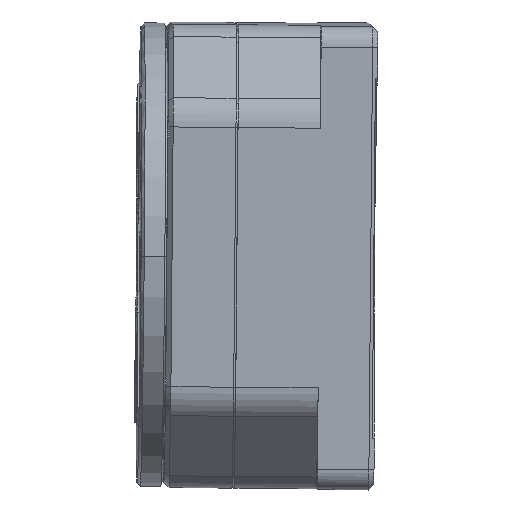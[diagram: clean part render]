
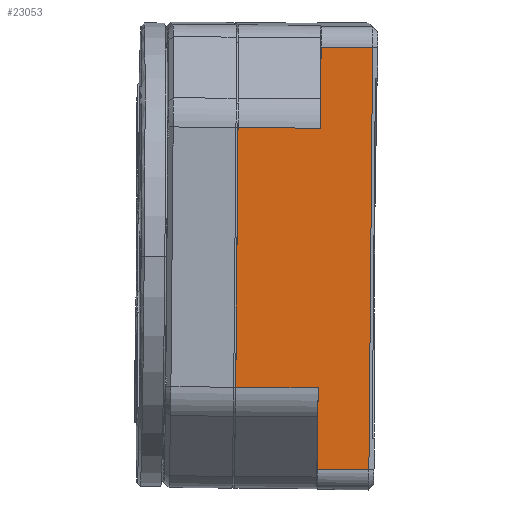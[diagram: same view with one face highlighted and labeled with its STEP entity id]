
A CAD part, left-side view. The second image highlights one B-rep face of the part: STEP entity #23053.
In plain terms, the highlighted planar face has unit normal (-1, -0.009, -0.009) as drawn and (0, 1, 0) by its records, which use the part's own axes.
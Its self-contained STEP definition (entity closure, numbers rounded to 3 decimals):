
#74 = VERTEX_POINT ( 'NONE', #6966 ) ;
#516 = EDGE_CURVE ( 'NONE', #3698, #27221, #11740, .T. ) ;
#1217 = ORIENTED_EDGE ( 'NONE', *, *, #15219, .T. ) ;
#1643 = VERTEX_POINT ( 'NONE', #22142 ) ;
#1649 = DIRECTION ( 'NONE',  ( 0., 0., -1. ) ) ;
#2105 = VERTEX_POINT ( 'NONE', #10804 ) ;
#2414 = VECTOR ( 'NONE', #3109, 1000. ) ;
#3026 = LINE ( 'NONE', #23701, #27061 ) ;
#3109 = DIRECTION ( 'NONE',  ( 0., 0., -1. ) ) ;
#3274 = CARTESIAN_POINT ( 'NONE',  ( 10., 22.5, 20.5 ) ) ;
#3293 = DIRECTION ( 'NONE',  ( 1., 0., 0. ) ) ;
#3348 = EDGE_CURVE ( 'NONE', #8338, #3698, #3026, .T. ) ;
#3698 = VERTEX_POINT ( 'NONE', #3274 ) ;
#4029 = VECTOR ( 'NONE', #27147, 1000. ) ;
#4342 = ORIENTED_EDGE ( 'NONE', *, *, #25161, .F. ) ;
#5672 = PLANE ( 'NONE',  #22045 ) ;
#5898 = DIRECTION ( 'NONE',  ( -1., 0., 0. ) ) ;
#6966 = CARTESIAN_POINT ( 'NONE',  ( -3., 22.5, 12.613 ) ) ;
#7751 = CARTESIAN_POINT ( 'NONE',  ( 10.5, 22.5, 12.613 ) ) ;
#7828 = FACE_OUTER_BOUND ( 'NONE', #24069, .T. ) ;
#8338 = VERTEX_POINT ( 'NONE', #10260 ) ;
#9215 = DIRECTION ( 'NONE',  ( 0., 0., -1. ) ) ;
#9756 = LINE ( 'NONE', #16392, #4029 ) ;
#10061 = CARTESIAN_POINT ( 'NONE',  ( -3., 22.5, 12.613 ) ) ;
#10260 = CARTESIAN_POINT ( 'NONE',  ( 5., 22.5, 20.5 ) ) ;
#10804 = CARTESIAN_POINT ( 'NONE',  ( 5., 22.5, 12.613 ) ) ;
#10959 = ORIENTED_EDGE ( 'NONE', *, *, #3348, .T. ) ;
#11085 = LINE ( 'NONE', #21863, #13458 ) ;
#11740 = LINE ( 'NONE', #14048, #27184 ) ;
#11796 = VECTOR ( 'NONE', #5898, 1000. ) ;
#12416 = CARTESIAN_POINT ( 'NONE',  ( 5., 22.5, -12.613 ) ) ;
#12692 = ORIENTED_EDGE ( 'NONE', *, *, #18359, .F. ) ;
#13458 = VECTOR ( 'NONE', #9215, 1000. ) ;
#13751 = VECTOR ( 'NONE', #3293, 1000. ) ;
#13907 = ORIENTED_EDGE ( 'NONE', *, *, #516, .T. ) ;
#14048 = CARTESIAN_POINT ( 'NONE',  ( 10., 22.5, -20.5 ) ) ;
#14188 = LINE ( 'NONE', #26824, #2414 ) ;
#14533 = LINE ( 'NONE', #10061, #26801 ) ;
#15219 = EDGE_CURVE ( 'NONE', #27221, #1643, #25725, .T. ) ;
#16392 = CARTESIAN_POINT ( 'NONE',  ( 10.5, 22.5, -12.613 ) ) ;
#16703 = DIRECTION ( 'NONE',  ( 0., 0., -1. ) ) ;
#16894 = CARTESIAN_POINT ( 'NONE',  ( 10.5, 22.5, 22.5 ) ) ;
#18359 = EDGE_CURVE ( 'NONE', #74, #18589, #14533, .T. ) ;
#18589 = VERTEX_POINT ( 'NONE', #25134 ) ;
#18683 = LINE ( 'NONE', #7751, #13751 ) ;
#19528 = ORIENTED_EDGE ( 'NONE', *, *, #22117, .T. ) ;
#20536 = EDGE_CURVE ( 'NONE', #27847, #1643, #11085, .T. ) ;
#20998 = CARTESIAN_POINT ( 'NONE',  ( 10.5, 22.5, -20.5 ) ) ;
#21863 = CARTESIAN_POINT ( 'NONE',  ( 5., 22.5, -14.27 ) ) ;
#22045 = AXIS2_PLACEMENT_3D ( 'NONE', #16894, #23474, #1649 ) ;
#22117 = EDGE_CURVE ( 'NONE', #74, #2105, #18683, .T. ) ;
#22142 = CARTESIAN_POINT ( 'NONE',  ( 5., 22.5, -20.5 ) ) ;
#22804 = DIRECTION ( 'NONE',  ( 0., 0., -1. ) ) ;
#23053 = ADVANCED_FACE ( 'NONE', ( #7828 ), #5672, .F. ) ;
#23474 = DIRECTION ( 'NONE',  ( 0., -1., 0. ) ) ;
#23573 = CARTESIAN_POINT ( 'NONE',  ( 10., 22.5, -20.5 ) ) ;
#23701 = CARTESIAN_POINT ( 'NONE',  ( 10.5, 22.5, 20.5 ) ) ;
#24069 = EDGE_LOOP ( 'NONE', ( #12692, #19528, #4342, #10959, #13907, #1217, #26959, #26413 ) ) ;
#25134 = CARTESIAN_POINT ( 'NONE',  ( -3., 22.5, -12.613 ) ) ;
#25161 = EDGE_CURVE ( 'NONE', #8338, #2105, #14188, .T. ) ;
#25725 = LINE ( 'NONE', #20998, #11796 ) ;
#26413 = ORIENTED_EDGE ( 'NONE', *, *, #28062, .T. ) ;
#26801 = VECTOR ( 'NONE', #16703, 1000. ) ;
#26824 = CARTESIAN_POINT ( 'NONE',  ( 5., 22.5, 14.27 ) ) ;
#26959 = ORIENTED_EDGE ( 'NONE', *, *, #20536, .F. ) ;
#27061 = VECTOR ( 'NONE', #27447, 1000. ) ;
#27147 = DIRECTION ( 'NONE',  ( -1., 0., 0. ) ) ;
#27184 = VECTOR ( 'NONE', #22804, 1000. ) ;
#27221 = VERTEX_POINT ( 'NONE', #23573 ) ;
#27447 = DIRECTION ( 'NONE',  ( 1., 0., 0. ) ) ;
#27847 = VERTEX_POINT ( 'NONE', #12416 ) ;
#28062 = EDGE_CURVE ( 'NONE', #27847, #18589, #9756, .T. ) ;
